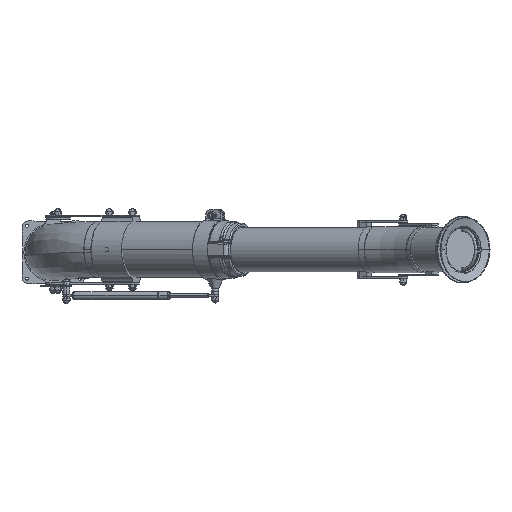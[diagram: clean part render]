
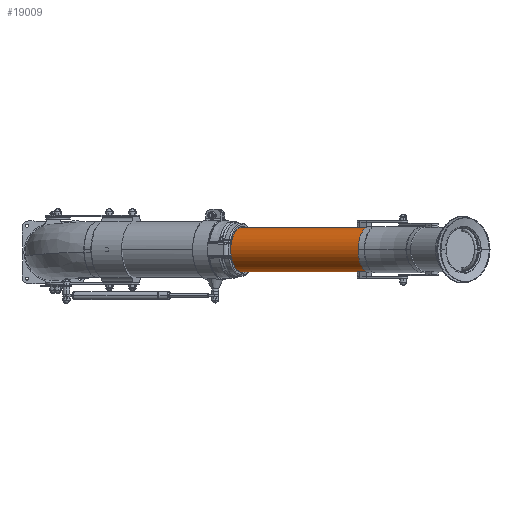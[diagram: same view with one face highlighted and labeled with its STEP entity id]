
A CAD part, front view. The second image highlights one B-rep face of the part: STEP entity #19009.
In plain terms, the highlighted cylindrical face has radius 50 mm (diameter 100 mm), a partial arc.
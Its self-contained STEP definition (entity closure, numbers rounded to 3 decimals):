
#18721=CARTESIAN_POINT('',(-34.5,50.,0.));
#18722=CARTESIAN_POINT('',(-34.5,50.,0.302));
#18723=CARTESIAN_POINT('',(-34.6,49.995,
0.868));
#18724=CARTESIAN_POINT('',(-35.067,49.974,
1.671));
#18725=CARTESIAN_POINT('',(-35.755,49.951,
2.224));
#18726=CARTESIAN_POINT('',(-36.569,49.937,
2.513));
#18727=CARTESIAN_POINT('',(-37.447,49.937,
2.511));
#18728=CARTESIAN_POINT('',(-38.272,49.952,
2.209));
#18729=CARTESIAN_POINT('',(-38.945,49.974,
1.653));
#18730=CARTESIAN_POINT('',(-39.399,49.995,
0.867));
#18731=CARTESIAN_POINT('',(-39.5,50.,0.302));
#18732=CARTESIAN_POINT('',(-39.5,50.,0.));
#18737=CARTESIAN_POINT('',(-22.5,50.,0.));
#18738=CARTESIAN_POINT('',(-22.5,50.,0.302));
#18739=CARTESIAN_POINT('',(-22.6,49.995,
0.868));
#18740=CARTESIAN_POINT('',(-23.067,49.974,
1.671));
#18741=CARTESIAN_POINT('',(-23.755,49.951,
2.224));
#18742=CARTESIAN_POINT('',(-24.569,49.937,
2.513));
#18743=CARTESIAN_POINT('',(-25.447,49.937,
2.511));
#18744=CARTESIAN_POINT('',(-26.272,49.952,
2.209));
#18745=CARTESIAN_POINT('',(-26.945,49.974,
1.653));
#18746=CARTESIAN_POINT('',(-27.399,49.995,
0.867));
#18747=CARTESIAN_POINT('',(-27.5,50.,0.302));
#18748=CARTESIAN_POINT('',(-27.5,50.,0.));
#18753=CARTESIAN_POINT('',(0.,0.,0.));
#18754=DIRECTION('',(1.,0.,0.));
#18755=DIRECTION('',(0.,1.,0.));
#18756=AXIS2_PLACEMENT_3D('',#18753,#18754,#18755);
#18761=CARTESIAN_POINT('',(-27.5,-50.,0.));
#18762=CARTESIAN_POINT('',(-27.5,-50.,0.301));
#18763=CARTESIAN_POINT('',(-27.399,-49.995,
0.865));
#18764=CARTESIAN_POINT('',(-26.947,-49.974,
1.651));
#18765=CARTESIAN_POINT('',(-26.272,-49.952,
2.209));
#18766=CARTESIAN_POINT('',(-25.449,-49.937,
2.511));
#18767=CARTESIAN_POINT('',(-24.57,-49.937,
2.513));
#18768=CARTESIAN_POINT('',(-23.754,-49.951,
2.223));
#18769=CARTESIAN_POINT('',(-23.068,-49.974,
1.672));
#18770=CARTESIAN_POINT('',(-22.6,-49.995,
0.868));
#18771=CARTESIAN_POINT('',(-22.5,-50.,0.302));
#18772=CARTESIAN_POINT('',(-22.5,-50.,0.));
#18777=CARTESIAN_POINT('',(-39.5,-50.,0.));
#18778=CARTESIAN_POINT('',(-39.5,-50.,0.301));
#18779=CARTESIAN_POINT('',(-39.399,-49.995,
0.865));
#18780=CARTESIAN_POINT('',(-38.947,-49.974,
1.651));
#18781=CARTESIAN_POINT('',(-38.272,-49.952,
2.209));
#18782=CARTESIAN_POINT('',(-37.449,-49.937,
2.511));
#18783=CARTESIAN_POINT('',(-36.57,-49.937,
2.513));
#18784=CARTESIAN_POINT('',(-35.754,-49.951,
2.223));
#18785=CARTESIAN_POINT('',(-35.068,-49.974,
1.672));
#18786=CARTESIAN_POINT('',(-34.6,-49.995,
0.868));
#18787=CARTESIAN_POINT('',(-34.5,-50.,0.302));
#18788=CARTESIAN_POINT('',(-34.5,-50.,0.));
#18823=DIRECTION('',(-1.,0.,0.));
#18824=VECTOR('',#18823,7.);
#18825=CARTESIAN_POINT('',(-27.5,-50.,0.));
#18826=LINE('',#18825,#18824);
#18846=DIRECTION('',(-1.,0.,0.));
#18847=VECTOR('',#18846,22.5);
#18848=CARTESIAN_POINT('',(0.,-50.,0.));
#18849=LINE('',#18848,#18847);
#18861=DIRECTION('',(-1.,0.,0.));
#18862=VECTOR('',#18861,22.5);
#18863=CARTESIAN_POINT('',(0.,50.,0.));
#18864=LINE('',#18863,#18862);
#18884=DIRECTION('',(-1.,0.,0.));
#18885=VECTOR('',#18884,7.);
#18886=CARTESIAN_POINT('',(-27.5,50.,0.));
#18887=LINE('',#18886,#18885);
#18907=DIRECTION('',(-1.,0.,0.));
#18908=VECTOR('',#18907,360.5);
#18909=CARTESIAN_POINT('',(-39.5,50.,0.));
#18910=LINE('',#18909,#18908);
#18914=DIRECTION('',(-1.,0.,0.));
#18915=VECTOR('',#18914,360.5);
#18916=CARTESIAN_POINT('',(-39.5,-50.,0.));
#18917=LINE('',#18916,#18915);
#18943=CARTESIAN_POINT('',(-400.,0.,0.));
#18944=DIRECTION('',(1.,0.,0.));
#18945=DIRECTION('',(0.,1.,0.));
#18946=AXIS2_PLACEMENT_3D('',#18943,#18944,#18945);
#18951=CARTESIAN_POINT('',(0.,50.,0.));
#18952=CARTESIAN_POINT('',(0.,-50.,0.));
#18953=VERTEX_POINT('',#18951);
#18954=VERTEX_POINT('',#18952);
#18955=CARTESIAN_POINT('',(-400.,50.,0.));
#18956=CARTESIAN_POINT('',(-400.,-50.,0.));
#18957=VERTEX_POINT('',#18955);
#18958=VERTEX_POINT('',#18956);
#18959=VERTEX_POINT('',#18737);
#18960=VERTEX_POINT('',#18748);
#18961=VERTEX_POINT('',#18761);
#18962=VERTEX_POINT('',#18772);
#18963=VERTEX_POINT('',#18721);
#18964=VERTEX_POINT('',#18732);
#18965=VERTEX_POINT('',#18777);
#18966=VERTEX_POINT('',#18788);
#18979=CARTESIAN_POINT('',(-420.,0.,0.));
#18980=DIRECTION('',(1.,0.,0.));
#18981=DIRECTION('',(0.,-1.,0.));
#18982=AXIS2_PLACEMENT_3D('',#18979,#18980,#18981);
#18983=CYLINDRICAL_SURFACE('',#18982,50.);
#18985=ORIENTED_EDGE('',*,*,#18984,.F.);
#18987=ORIENTED_EDGE('',*,*,#18986,.F.);
#18989=ORIENTED_EDGE('',*,*,#18988,.F.);
#18991=ORIENTED_EDGE('',*,*,#18990,.F.);
#18992=ORIENTED_EDGE('',*,*,#18972,.T.);
#18994=ORIENTED_EDGE('',*,*,#18993,.T.);
#18996=ORIENTED_EDGE('',*,*,#18995,.F.);
#18998=ORIENTED_EDGE('',*,*,#18997,.T.);
#19000=ORIENTED_EDGE('',*,*,#18999,.F.);
#19002=ORIENTED_EDGE('',*,*,#19001,.T.);
#19004=ORIENTED_EDGE('',*,*,#19003,.F.);
#19006=ORIENTED_EDGE('',*,*,#19005,.F.);
#19007=EDGE_LOOP('',(#18985,#18987,#18989,#18991,#18992,#18994,#18996,#18998,
#19000,#19002,#19004,#19006));
#19008=FACE_OUTER_BOUND('',#19007,.F.);
#18733=B_SPLINE_CURVE_WITH_KNOTS('',3,(#18721,#18722,#18723,#18724,#18725,
#18726,#18727,#18728,#18729,#18730,#18731,#18732),.UNSPECIFIED.,.F.,.F.,(4,1,1,
1,1,1,1,1,1,4),(0.,0.111,0.222,0.333,
0.444,0.556,0.667,0.778,
0.889,1.),.UNSPECIFIED.);
#18749=B_SPLINE_CURVE_WITH_KNOTS('',3,(#18737,#18738,#18739,#18740,#18741,
#18742,#18743,#18744,#18745,#18746,#18747,#18748),.UNSPECIFIED.,.F.,.F.,(4,1,1,
1,1,1,1,1,1,4),(0.,0.111,0.222,0.333,
0.444,0.556,0.667,0.778,
0.889,1.),.UNSPECIFIED.);
#18757=CIRCLE('',#18756,50.);
#18773=B_SPLINE_CURVE_WITH_KNOTS('',3,(#18761,#18762,#18763,#18764,#18765,
#18766,#18767,#18768,#18769,#18770,#18771,#18772),.UNSPECIFIED.,.F.,.F.,(4,1,1,
1,1,1,1,1,1,4),(0.,0.111,0.222,0.333,
0.444,0.556,0.667,0.778,
0.889,1.),.UNSPECIFIED.);
#18789=B_SPLINE_CURVE_WITH_KNOTS('',3,(#18777,#18778,#18779,#18780,#18781,
#18782,#18783,#18784,#18785,#18786,#18787,#18788),.UNSPECIFIED.,.F.,.F.,(4,1,1,
1,1,1,1,1,1,4),(0.,0.111,0.222,0.333,
0.444,0.556,0.667,0.778,
0.889,1.),.UNSPECIFIED.);
#18947=CIRCLE('',#18946,50.);
#18972=EDGE_CURVE('',#18953,#18954,#18757,.T.);
#18984=EDGE_CURVE('',#18963,#18964,#18733,.T.);
#18986=EDGE_CURVE('',#18960,#18963,#18887,.T.);
#18988=EDGE_CURVE('',#18959,#18960,#18749,.T.);
#18990=EDGE_CURVE('',#18953,#18959,#18864,.T.);
#18993=EDGE_CURVE('',#18954,#18962,#18849,.T.);
#18995=EDGE_CURVE('',#18961,#18962,#18773,.T.);
#18997=EDGE_CURVE('',#18961,#18966,#18826,.T.);
#18999=EDGE_CURVE('',#18965,#18966,#18789,.T.);
#19001=EDGE_CURVE('',#18965,#18958,#18917,.T.);
#19003=EDGE_CURVE('',#18957,#18958,#18947,.T.);
#19005=EDGE_CURVE('',#18964,#18957,#18910,.T.);
#19009=ADVANCED_FACE('',(#19008),#18983,.T.);
